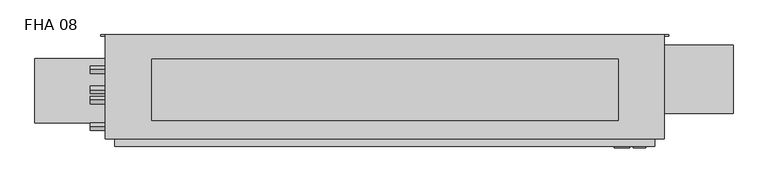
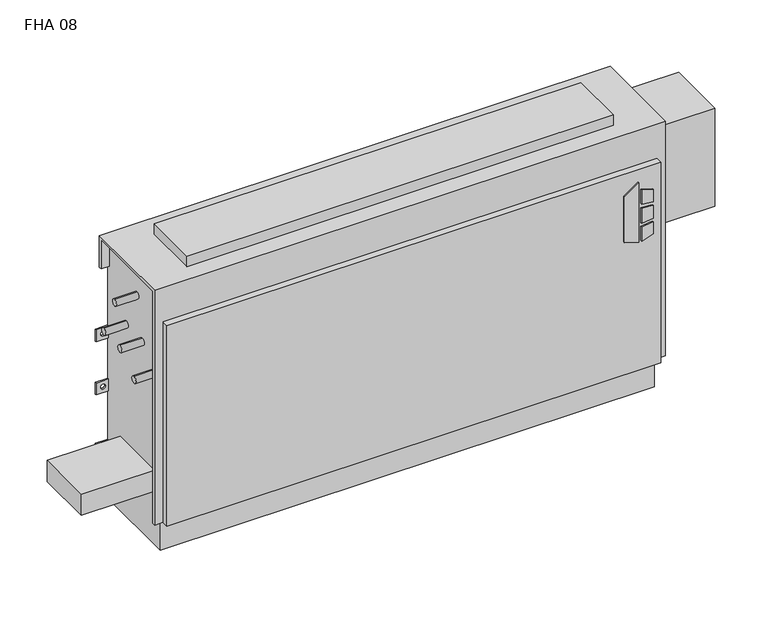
"""IFC4 building model written with IfcOpenShell, lengths in millimetres: proxy geometry, Vertical_Fan_Coil_Unit_-_FHA_-_IEC_-_4-Pipe_TS-FR_LH_2022 : FHA 08."""

from ifc_helpers import new_model, si_unit, point, frame, frame_2d, origin, place, context, project, spatial, polyline, circle_curve, trimmed, segment, composite_curve, outline, extrude, source, transform, mapped, element, save
from ifc_brep_helpers import plane_surface, revolved_surface, advanced_brep


def fha_08_7689c4cf(model_context):
    return source(origin(), model_context, "Body", "SolidModel", [
        extrude(outline(polyline([(391.6086829, 627.1368862), (381.6606126, 659.3102728), (523.831537, 659.3102728), (500.8095309, 627.1368862), (391.6086829, 627.1368862)])), frame((0.0, 9.525, 0.0), z_axis=(0.0, 1.0, 0.0), x_axis=(0.0, 0.0, 1.0)), (0.0, 0.0, 1.0), 3.175),
        extrude(outline(polyline([(470.6079683, 666.0686058), (467.4055757, 692.15), (496.6344168, 692.15), (504.6988318, 666.0686058), (470.6079683, 666.0686058)])), frame((0.0, 9.525, 0.0), z_axis=(0.0, 1.0, 0.0), x_axis=(0.0, 0.0, 1.0)), (0.0, 0.0, 1.0), 3.175),
        extrude(outline(polyline([(418.7444414, 692.15), (415.0789404, 666.0686058), (381.6606126, 666.0686058), (390.2948498, 692.15), (418.7444414, 692.15)])), frame((0.0, 9.525, 0.0), z_axis=(0.0, 1.0, 0.0), x_axis=(0.0, 0.0, 1.0)), (0.0, 0.0, 1.0), 3.175),
        extrude(outline(polyline([(458.0596028, 692.15), (460.3414292, 666.0686058), (424.4038806, 666.0686058), (427.1451456, 692.15), (458.0596028, 692.15)])), frame((0.0, 9.525, 0.0), z_axis=(0.0, 1.0, 0.0), x_axis=(0.0, 0.0, 1.0)), (0.0, 0.0, 1.0), 3.175),
        extrude(outline(composite_curve([segment(trimmed(circle_curve(frame_2d((-469.9, 128.5875)), 9.525), [point((-479.425, 128.5875))], [point((-460.375, 128.5875))], False, "CARTESIAN"), True, "CONTINUOUS"), segment(trimmed(circle_curve(frame_2d((-469.9, 128.5875)), 9.525), [point((-460.375, 128.5875))], [point((-479.425, 128.5875))], False, "CARTESIAN"), True, "CONTINUOUS")], self_intersect=False)), frame((0.0, 0.0, 101.6), z_axis=(0.0, 0.0, 1.0), x_axis=(1.0, 0.0, 0.0)), (0.0, 0.0, 1.0), 25.4),
        extrude(outline(polyline([(-571.5, 61.9125), (-571.5, 195.2625), (-406.4, 195.2625), (-406.4, 61.9125), (-571.5, 61.9125)])), frame((0.0, 0.0, 127.0), z_axis=(0.0, 0.0, 1.0), x_axis=(1.0, 0.0, 0.0)), (0.0, 0.0, 1.0), 50.8),
        extrude(outline(polyline([(635.0, 193.675), (635.0, 66.675), (-330.2, 66.675), (-330.2, 193.675), (635.0, 193.675)])), frame((0.0, 0.0, 635.0), z_axis=(0.0, 0.0, 1.0), x_axis=(1.0, 0.0, 0.0)), (0.0, 0.0, 1.0), 25.4),
        extrude(outline(composite_curve([segment(trimmed(circle_curve(frame_2d((109.0168, 457.2)), 7.9375), [point((109.0168, 465.1375))], [point((109.0168, 449.2625))], False, "CARTESIAN"), True, "CONTINUOUS"), segment(trimmed(circle_curve(frame_2d((109.0168, 457.2)), 7.9375), [point((109.0168, 449.2625))], [point((109.0168, 465.1375))], False, "CARTESIAN"), True, "CONTINUOUS")], self_intersect=False)), frame((-457.2, 0.0, 0.0), z_axis=(1.0, 0.0, 0.0), x_axis=(0.0, 1.0, 0.0)), (0.0, 0.0, 1.0), 50.8),
        extrude(outline(composite_curve([segment(trimmed(circle_curve(frame_2d((172.085, 460.0194)), 7.9375), [point((172.085, 467.9569))], [point((172.085, 452.0819))], False, "CARTESIAN"), True, "CONTINUOUS"), segment(trimmed(circle_curve(frame_2d((172.085, 460.0194)), 7.9375), [point((172.085, 452.0819))], [point((172.085, 467.9569))], False, "CARTESIAN"), True, "CONTINUOUS")], self_intersect=False)), frame((-457.2, 0.0, 0.0), z_axis=(1.0, 0.0, 0.0), x_axis=(0.0, 1.0, 0.0)), (0.0, 0.0, 1.0), 50.8),
        extrude(outline(composite_curve([segment(trimmed(circle_curve(frame_2d((130.175, 554.99)), 7.9502), [point((130.175, 562.9402))], [point((130.175, 547.0398))], False, "CARTESIAN"), True, "CONTINUOUS"), segment(trimmed(circle_curve(frame_2d((130.175, 554.99)), 7.9502), [point((130.175, 547.0398))], [point((130.175, 562.9402))], False, "CARTESIAN"), True, "CONTINUOUS")], self_intersect=False)), frame((-457.2, 0.0, 0.0), z_axis=(1.0, 0.0, 0.0), x_axis=(0.0, 1.0, 0.0)), (0.0, 0.0, 1.0), 50.8),
        extrude(outline(composite_curve([segment(trimmed(circle_curve(frame_2d((53.975, 416.56)), 7.9502), [point((53.975, 424.5102))], [point((53.975, 408.6098))], False, "CARTESIAN"), True, "CONTINUOUS"), segment(trimmed(circle_curve(frame_2d((53.975, 416.56)), 7.9502), [point((53.975, 408.6098))], [point((53.975, 424.5102))], False, "CARTESIAN"), True, "CONTINUOUS")], self_intersect=False)), frame((-457.2, 0.0, 0.0), z_axis=(1.0, 0.0, 0.0), x_axis=(0.0, 1.0, 0.0)), (0.0, 0.0, 1.0), 50.8),
        extrude(outline(polyline([(873.125, 223.266), (873.125, 81.534), (711.2, 81.534), (711.2, 223.266), (873.125, 223.266)])), frame((0.0, 0.0, 349.25), z_axis=(0.0, 0.0, 1.0), x_axis=(1.0, 0.0, 0.0)), (0.0, 0.0, 1.0), 234.95),
        advanced_brep(
        [(730.25, 244.475, 635.0), (-425.45, 244.475, 635.0), (-425.45, 28.575, 635.0), (730.25, 28.575, 635.0), (-406.4, 244.475, 0.0), (711.2, 244.475, 0.0), (711.2, 38.1, 0.0), (-406.4, 38.1, 0.0), (730.25, 244.475, 558.8), (711.2, 244.475, 558.8), (711.2, 244.475, 414.3375), (739.775, 244.475, 414.3375), (739.775, 244.475, 385.7625), (711.2, 244.475, 385.7625), (711.2, 244.475, 287.3375), (739.775, 244.475, 287.3375), (739.775, 244.475, 258.7625), (711.2, 244.475, 258.7625), (711.2, 244.475, 141.2875), (739.775, 244.475, 141.2875), (739.775, 244.475, 112.7125), (711.2, 244.475, 112.7125), (-406.4, 244.475, 112.7125), (-434.975, 244.475, 112.7125), (-434.975, 244.475, 141.2875), (-406.4, 244.475, 141.2875), (-406.4, 244.475, 258.7625), (-434.975, 244.475, 258.7625), (-434.975, 244.475, 287.3375), (-406.4, 244.475, 287.3375), (-406.4, 244.475, 385.7625), (-434.975, 244.475, 385.7625), (-434.975, 244.475, 414.3375), (-406.4, 244.475, 414.3375), (-406.4, 244.475, 558.8), (-425.45, 244.475, 558.8), (729.4626, 244.475, 127.0), (718.3374, 244.475, 127.0), (-413.5374, 244.475, 127.0), (-424.6626, 244.475, 127.0), (729.4626, 244.475, 273.05), (718.3374, 244.475, 273.05), (-413.5374, 244.475, 273.05), (-424.6626, 244.475, 273.05), (729.4626, 244.475, 400.05), (718.3374, 244.475, 400.05), (-413.5374, 244.475, 400.05), (-424.6626, 244.475, 400.05), (-425.45, 238.125, 558.8), (-425.45, 238.125, 628.65), (-425.45, 34.925, 628.65), (-425.45, 34.925, 73.025), (-425.45, 28.575, 73.025), (711.2, 12.7, 552.45), (-406.4, 12.7, 552.45), (-406.4, 12.7, 73.025), (711.2, 12.7, 73.025), (730.25, 28.575, 73.025), (730.25, 34.925, 73.025), (730.25, 34.925, 628.65), (730.25, 238.125, 628.65), (730.25, 238.125, 558.8), (-406.4, 28.575, 73.025), (-406.4, 28.575, 552.45), (711.2, 28.575, 552.45), (711.2, 28.575, 73.025), (-406.4, 34.925, 73.025), (-406.4, 38.1, 73.025), (711.2, 38.1, 73.025), (711.2, 34.925, 73.025), (711.2, 241.3, 112.7125), (711.2, 241.3, 141.2875), (711.2, 241.3, 258.7625), (711.2, 241.3, 287.3375), (711.2, 241.3, 385.7625), (711.2, 241.3, 414.3375), (711.2, 238.125, 558.8), (711.2, 238.125, 628.65), (711.2, 34.925, 628.65), (-406.4, 34.925, 628.65), (-406.4, 238.125, 628.65), (-406.4, 238.125, 558.8), (-406.4, 241.3, 414.3375), (-406.4, 241.3, 385.7625), (-406.4, 241.3, 287.3375), (-406.4, 241.3, 258.7625), (-406.4, 241.3, 141.2875), (-406.4, 241.3, 112.7125), (739.775, 241.3, 112.7125), (739.775, 241.3, 141.2875), (718.3374, 241.3, 127.0), (729.4626, 241.3, 127.0), (739.775, 241.3, 258.7625), (739.775, 241.3, 287.3375), (718.3374, 241.3, 273.05), (729.4626, 241.3, 273.05), (739.775, 241.3, 385.7625), (739.775, 241.3, 414.3375), (718.3374, 241.3, 400.05), (729.4626, 241.3, 400.05), (-434.975, 241.3, 141.2875), (-434.975, 241.3, 112.7125), (-424.6626, 241.3, 127.0), (-413.5374, 241.3, 127.0), (-434.975, 241.3, 287.3375), (-434.975, 241.3, 258.7625), (-424.6626, 241.3, 273.05), (-413.5374, 241.3, 273.05), (-434.975, 241.3, 414.3375), (-434.975, 241.3, 385.7625), (-424.6626, 241.3, 400.05), (-413.5374, 241.3, 400.05)],
        [
            (0, 1),
            (1, 2),
            (2, 3),
            (3, 0),
            (4, 5),
            (5, 6),
            (6, 7),
            (7, 4),
            (0, 8),
            (8, 9),
            (9, 10),
            (10, 11),
            (11, 12),
            (12, 13),
            (13, 14),
            (14, 15),
            (15, 16),
            (16, 17),
            (17, 18),
            (18, 19),
            (19, 20),
            (20, 21),
            (21, 5),
            (4, 22),
            (22, 23),
            (23, 24),
            (24, 25),
            (25, 26),
            (26, 27),
            (27, 28),
            (28, 29),
            (29, 30),
            (30, 31),
            (31, 32),
            (32, 33),
            (33, 34),
            (34, 35),
            (35, 1),
            (36, 37, circle_curve(frame((723.9, 244.475, 127.0), z_axis=(0.0, -1.0, 0.0), x_axis=(-1.0, 0.0, 0.0)), 5.5626)),
            (37, 36, circle_curve(frame((723.9, 244.475, 127.0), z_axis=(0.0, -1.0, 0.0), x_axis=(-1.0, 0.0, 0.0)), 5.5626)),
            (38, 39, circle_curve(frame((-419.1, 244.475, 127.0), z_axis=(0.0, -1.0, 0.0), x_axis=(-1.0, 0.0, 0.0)), 5.5626)),
            (39, 38, circle_curve(frame((-419.1, 244.475, 127.0), z_axis=(0.0, -1.0, 0.0), x_axis=(-1.0, 0.0, 0.0)), 5.5626)),
            (40, 41, circle_curve(frame((723.9, 244.475, 273.05), z_axis=(0.0, -1.0, 0.0), x_axis=(-1.0, 0.0, 0.0)), 5.5626)),
            (41, 40, circle_curve(frame((723.9, 244.475, 273.05), z_axis=(0.0, -1.0, 0.0), x_axis=(-1.0, 0.0, 0.0)), 5.5626)),
            (42, 43, circle_curve(frame((-419.1, 244.475, 273.05), z_axis=(0.0, -1.0, 0.0), x_axis=(-1.0, 0.0, 0.0)), 5.5626)),
            (43, 42, circle_curve(frame((-419.1, 244.475, 273.05), z_axis=(0.0, -1.0, 0.0), x_axis=(-1.0, 0.0, 0.0)), 5.5626)),
            (44, 45, circle_curve(frame((723.9, 244.475, 400.05), z_axis=(0.0, -1.0, 0.0), x_axis=(-1.0, 0.0, 0.0)), 5.5626)),
            (45, 44, circle_curve(frame((723.9, 244.475, 400.05), z_axis=(0.0, -1.0, 0.0), x_axis=(-1.0, 0.0, 0.0)), 5.5626)),
            (46, 47, circle_curve(frame((-419.1, 244.475, 400.05), z_axis=(0.0, -1.0, 0.0), x_axis=(-1.0, 0.0, 0.0)), 5.5626)),
            (47, 46, circle_curve(frame((-419.1, 244.475, 400.05), z_axis=(0.0, -1.0, 0.0), x_axis=(-1.0, 0.0, 0.0)), 5.5626)),
            (35, 48),
            (48, 49),
            (49, 50),
            (50, 51),
            (51, 52),
            (52, 2),
            (53, 54),
            (54, 55),
            (55, 56),
            (56, 53),
            (3, 57),
            (57, 58),
            (58, 59),
            (59, 60),
            (60, 61),
            (61, 8),
            (52, 62),
            (62, 63),
            (63, 64),
            (64, 65),
            (65, 57),
            (53, 64),
            (63, 54),
            (55, 62),
            (51, 66),
            (66, 67),
            (67, 68),
            (68, 69),
            (69, 58),
            (65, 56),
            (6, 68),
            (67, 7),
            (21, 70),
            (70, 71),
            (71, 18),
            (17, 72),
            (72, 73),
            (73, 14),
            (13, 74),
            (74, 75),
            (75, 10),
            (9, 76),
            (76, 77),
            (77, 78),
            (78, 69),
            (66, 79),
            (79, 80),
            (80, 81),
            (81, 34),
            (33, 82),
            (82, 83),
            (83, 30),
            (29, 84),
            (84, 85),
            (85, 26),
            (25, 86),
            (86, 87),
            (87, 22),
            (76, 61),
            (60, 77),
            (78, 59),
            (50, 79),
            (81, 48),
            (80, 49),
            (70, 88),
            (88, 89),
            (89, 71),
            (90, 91, circle_curve(frame((723.9, 241.3, 127.0), z_axis=(0.0, 1.0, 0.0), x_axis=(-1.0, 0.0, 0.0)), 5.5626)),
            (91, 90, circle_curve(frame((723.9, 241.3, 127.0), z_axis=(0.0, 1.0, 0.0), x_axis=(-1.0, 0.0, 0.0)), 5.5626)),
            (92, 93),
            (93, 73),
            (72, 92),
            (94, 95, circle_curve(frame((723.9, 241.3, 273.05), z_axis=(0.0, 1.0, 0.0), x_axis=(-1.0, 0.0, 0.0)), 5.5626)),
            (95, 94, circle_curve(frame((723.9, 241.3, 273.05), z_axis=(0.0, 1.0, 0.0), x_axis=(-1.0, 0.0, 0.0)), 5.5626)),
            (96, 97),
            (97, 75),
            (74, 96),
            (98, 99, circle_curve(frame((723.9, 241.3, 400.05), z_axis=(0.0, 1.0, 0.0), x_axis=(-1.0, 0.0, 0.0)), 5.5626)),
            (99, 98, circle_curve(frame((723.9, 241.3, 400.05), z_axis=(0.0, 1.0, 0.0), x_axis=(-1.0, 0.0, 0.0)), 5.5626)),
            (100, 101),
            (101, 87),
            (86, 100),
            (102, 103, circle_curve(frame((-419.1, 241.3, 127.0), z_axis=(0.0, 1.0, 0.0), x_axis=(-1.0, 0.0, 0.0)), 5.5626)),
            (103, 102, circle_curve(frame((-419.1, 241.3, 127.0), z_axis=(0.0, 1.0, 0.0), x_axis=(-1.0, 0.0, 0.0)), 5.5626)),
            (84, 104),
            (104, 105),
            (105, 85),
            (106, 107, circle_curve(frame((-419.1, 241.3, 273.05), z_axis=(0.0, 1.0, 0.0), x_axis=(-1.0, 0.0, 0.0)), 5.5626)),
            (107, 106, circle_curve(frame((-419.1, 241.3, 273.05), z_axis=(0.0, 1.0, 0.0), x_axis=(-1.0, 0.0, 0.0)), 5.5626)),
            (108, 109),
            (109, 83),
            (82, 108),
            (110, 111, circle_curve(frame((-419.1, 241.3, 400.05), z_axis=(0.0, 1.0, 0.0), x_axis=(-1.0, 0.0, 0.0)), 5.5626)),
            (111, 110, circle_curve(frame((-419.1, 241.3, 400.05), z_axis=(0.0, 1.0, 0.0), x_axis=(-1.0, 0.0, 0.0)), 5.5626)),
            (89, 19),
            (88, 20),
            (16, 92),
            (93, 15),
            (12, 96),
            (97, 11),
            (24, 100),
            (101, 23),
            (105, 27),
            (104, 28),
            (32, 108),
            (109, 31),
            (90, 37),
            (36, 91),
            (102, 39),
            (38, 103),
            (94, 41),
            (40, 95),
            (106, 43),
            (42, 107),
            (98, 45),
            (44, 99),
            (110, 47),
            (46, 111),
        ],
        [
            plane_surface(frame((-425.45, 244.475, 635.0), z_axis=(0.0, 0.0, 1.0), x_axis=(-1.0, 0.0, 0.0))),
            plane_surface(frame((-425.45, 244.475, 0.0), z_axis=(0.0, 0.0, -1.0), x_axis=(1.0, 0.0, 0.0))),
            plane_surface(frame((730.25, 244.475, 635.0), z_axis=(0.0, 1.0, 0.0), x_axis=(0.0, 0.0, -1.0))),
            plane_surface(frame((-425.45, 244.475, 635.0), z_axis=(-1.0, 0.0, 0.0), x_axis=(0.0, 0.0, -1.0))),
            plane_surface(frame((-425.45, 12.7, 635.0), z_axis=(0.0, -1.0, 0.0), x_axis=(0.0, 0.0, -1.0))),
            plane_surface(frame((730.25, 12.7, 635.0), z_axis=(1.0, 0.0, 0.0), x_axis=(0.0, 0.0, -1.0))),
            plane_surface(frame((-704.85, 28.575, 635.0), z_axis=(0.0, -1.0, 0.0), x_axis=(1.0, 0.0, 0.0))),
            plane_surface(frame((-704.85, 28.575, 552.45), z_axis=(0.0, 0.0, 1.0), x_axis=(1.0, 0.0, 0.0))),
            plane_surface(frame((-425.45, 12.7, 73.025), z_axis=(0.0, 0.0, -1.0), x_axis=(1.0, 0.0, 0.0))),
            plane_surface(frame((-425.45, 38.1, 73.025), z_axis=(0.0, -1.0, 0.0), x_axis=(1.0, 0.0, 0.0))),
            plane_surface(frame((711.2, 28.575, 73.025), z_axis=(1.0, 0.0, 0.0), x_axis=(0.0, -1.0, 0.0))),
            plane_surface(frame((-406.4, 28.575, 552.45), z_axis=(-1.0, 0.0, 0.0), x_axis=(0.0, -1.0, 0.0))),
            plane_surface(frame((711.2, 244.475, 0.0), z_axis=(1.0, 0.0, 0.0), x_axis=(0.0, -1.0, 0.0))),
            plane_surface(frame((-406.4, 244.475, 73.025), z_axis=(-1.0, 0.0, 0.0), x_axis=(0.0, -1.0, 0.0))),
            plane_surface(frame((711.2, 238.125, 628.65), z_axis=(0.0, -1.0, 0.0), x_axis=(1.0, 0.0, 0.0))),
            plane_surface(frame((711.2, 238.125, 558.8), z_axis=(0.0, 0.0, -1.0), x_axis=(1.0, 0.0, 0.0))),
            plane_surface(frame((711.2, 34.925, 73.025), z_axis=(0.0, 1.0, 0.0), x_axis=(1.0, 0.0, 0.0))),
            plane_surface(frame((711.2, 34.925, 628.65), z_axis=(0.0, 0.0, -1.0), x_axis=(1.0, 0.0, 0.0))),
            plane_surface(frame((-406.4, 34.925, 628.65), z_axis=(0.0, 1.0, 0.0), x_axis=(-1.0, 0.0, 0.0))),
            plane_surface(frame((-406.4, 244.475, 558.8), z_axis=(0.0, 0.0, -1.0), x_axis=(-1.0, 0.0, 0.0))),
            plane_surface(frame((-406.4, 238.125, 558.8), z_axis=(0.0, -1.0, 0.0), x_axis=(-1.0, 0.0, 0.0))),
            plane_surface(frame((-406.4, 238.125, 628.65), z_axis=(0.0, 0.0, -1.0), x_axis=(-1.0, 0.0, 0.0))),
            plane_surface(frame((739.775, 241.3, 141.2875), z_axis=(0.0, -1.0, 0.0), x_axis=(-1.0, 0.0, 0.0))),
            plane_surface(frame((711.2, 244.475, 141.2875), z_axis=(0.0, 0.0, 1.0), x_axis=(0.0, -1.0, 0.0))),
            plane_surface(frame((739.775, 244.475, 141.2875), z_axis=(1.0, 0.0, 0.0), x_axis=(0.0, -1.0, 0.0))),
            plane_surface(frame((739.775, 244.475, 112.7125), z_axis=(0.0, 0.0, -1.0), x_axis=(0.0, -1.0, 0.0))),
            plane_surface(frame((739.775, 244.475, 258.7625), z_axis=(0.0, 0.0, -1.0), x_axis=(0.0, -1.0, 0.0))),
            plane_surface(frame((711.2, 244.475, 287.3375), z_axis=(0.0, 0.0, 1.0), x_axis=(0.0, -1.0, 0.0))),
            plane_surface(frame((739.775, 244.475, 287.3375), z_axis=(1.0, 0.0, 0.0), x_axis=(0.0, -1.0, 0.0))),
            plane_surface(frame((739.775, 244.475, 385.7625), z_axis=(0.0, 0.0, -1.0), x_axis=(0.0, -1.0, 0.0))),
            plane_surface(frame((711.2, 244.475, 414.3375), z_axis=(0.0, 0.0, 1.0), x_axis=(0.0, -1.0, 0.0))),
            plane_surface(frame((739.775, 244.475, 414.3375), z_axis=(1.0, 0.0, 0.0), x_axis=(0.0, -1.0, 0.0))),
            plane_surface(frame((-434.975, 244.475, 141.2875), z_axis=(0.0, 0.0, 1.0), x_axis=(0.0, -1.0, 0.0))),
            plane_surface(frame((-406.4, 244.475, 112.7125), z_axis=(0.0, 0.0, -1.0), x_axis=(0.0, -1.0, 0.0))),
            plane_surface(frame((-434.975, 244.475, 112.7125), z_axis=(-1.0, 0.0, 0.0), x_axis=(0.0, -1.0, 0.0))),
            plane_surface(frame((-406.4, 244.475, 258.7625), z_axis=(0.0, 0.0, -1.0), x_axis=(0.0, -1.0, 0.0))),
            plane_surface(frame((-434.975, 244.475, 258.7625), z_axis=(-1.0, 0.0, 0.0), x_axis=(0.0, -1.0, 0.0))),
            plane_surface(frame((-434.975, 244.475, 287.3375), z_axis=(0.0, 0.0, 1.0), x_axis=(0.0, -1.0, 0.0))),
            plane_surface(frame((-434.975, 244.475, 414.3375), z_axis=(0.0, 0.0, 1.0), x_axis=(0.0, -1.0, 0.0))),
            plane_surface(frame((-406.4, 244.475, 385.7625), z_axis=(0.0, 0.0, -1.0), x_axis=(0.0, -1.0, 0.0))),
            plane_surface(frame((-434.975, 244.475, 385.7625), z_axis=(-1.0, 0.0, 0.0), x_axis=(0.0, -1.0, 0.0))),
            revolved_surface(polyline([(718.3374, 241.3, 127.0), (718.3374, 244.475, 127.0)]), (723.9, 244.475, 127.0), (0.0, -1.0, 0.0)),
            revolved_surface(polyline([(-424.6626, 241.3, 127.0), (-424.6626, 244.475, 127.0)]), (-419.1, 244.475, 127.0), (0.0, -1.0, 0.0)),
            revolved_surface(polyline([(718.3374, 241.3, 273.05), (718.3374, 244.475, 273.05)]), (723.9, 244.475, 273.05), (0.0, -1.0, 0.0)),
            revolved_surface(polyline([(-424.6626, 241.3, 273.05), (-424.6626, 244.475, 273.05)]), (-419.1, 244.475, 273.05), (0.0, -1.0, 0.0)),
            revolved_surface(polyline([(718.3374, 241.3, 400.05), (718.3374, 244.475, 400.05)]), (723.9, 244.475, 400.05), (0.0, -1.0, 0.0)),
            revolved_surface(polyline([(-424.6626, 241.3, 400.05), (-424.6626, 244.475, 400.05)]), (-419.1, 244.475, 400.05), (0.0, -1.0, 0.0)),
        ],
        [
            (0, [[1, 2, 3, 4]]),
            (1, [[5, 6, 7, 8]]),
            (2, [[-1, 9, 10, 11, 12, 13, 14, 15, 16, 17, 18, 19, 20, 21, 22, 23, -5, 24, 25, 26, 27, 28, 29, 30, 31, 32, 33, 34, 35, 36, 37, 38], [39, 40], [41, 42], [43, 44], [45, 46], [47, 48], [49, 50]]),
            (3, [[-2, -38, 51, 52, 53, 54, 55, 56]]),
            (4, [[57, 58, 59, 60]]),
            (5, [[-4, 61, 62, 63, 64, 65, 66, -9]]),
            (6, [[-3, -56, 67, 68, 69, 70, 71, -61]]),
            (7, [[-57, 72, -69, 73]]),
            (8, [[-59, 74, -67, -55, 75, 76, 77, 78, 79, -62, -71, 80]]),
            (9, [[-7, 81, -77, 82]]),
            (10, [[-70, -72, -60, -80]]),
            (11, [[-68, -74, -58, -73]]),
            (12, [[-6, -23, 83, 84, 85, -19, 86, 87, 88, -15, 89, 90, 91, -11, 92, 93, 94, 95, -78, -81]]),
            (13, [[-8, -82, -76, 96, 97, 98, 99, -36, 100, 101, 102, -32, 103, 104, 105, -28, 106, 107, 108, -24]]),
            (14, [[-93, 109, -65, 110]]),
            (15, [[-92, -10, -66, -109]]),
            (16, [[-95, 111, -63, -79]]),
            (17, [[-94, -110, -64, -111]]),
            (18, [[-96, -75, -54, 112]]),
            (19, [[-99, 113, -51, -37]]),
            (20, [[-98, 114, -52, -113]]),
            (21, [[-97, -112, -53, -114]]),
            (22, [[115, 116, 117, -84], [118, 119]]),
            (22, [[120, 121, -87, 122], [123, 124]]),
            (22, [[125, 126, -90, 127], [128, 129]]),
            (22, [[130, 131, -107, 132], [133, 134]]),
            (22, [[135, 136, 137, -104], [138, 139]]),
            (22, [[140, 141, -101, 142], [143, 144]]),
            (23, [[-117, 145, -20, -85]]),
            (24, [[-116, 146, -21, -145]]),
            (25, [[-115, -83, -22, -146]]),
            (26, [[-122, -86, -18, 147]]),
            (27, [[-121, 148, -16, -88]]),
            (28, [[-120, -147, -17, -148]]),
            (29, [[-127, -89, -14, 149]]),
            (30, [[-126, 150, -12, -91]]),
            (31, [[-125, -149, -13, -150]]),
            (32, [[-132, -106, -27, 151]]),
            (33, [[-131, 152, -25, -108]]),
            (34, [[-130, -151, -26, -152]]),
            (35, [[-137, 153, -29, -105]]),
            (36, [[-136, 154, -30, -153]]),
            (37, [[-135, -103, -31, -154]]),
            (38, [[-142, -100, -35, 155]]),
            (39, [[-141, 156, -33, -102]]),
            (40, [[-140, -155, -34, -156]]),
            (41, [[157, -39, 158, -118]]),
            (41, [[-157, -119, -158, -40]]),
            (42, [[159, -41, 160, -133]]),
            (42, [[-159, -134, -160, -42]]),
            (43, [[161, -43, 162, -123]]),
            (43, [[-161, -124, -162, -44]]),
            (44, [[163, -45, 164, -138]]),
            (44, [[-163, -139, -164, -46]]),
            (45, [[165, -47, 166, -128]]),
            (45, [[-165, -129, -166, -48]]),
            (46, [[167, -49, 168, -143]]),
            (46, [[-167, -144, -168, -50]]),
        ],
    ),
    ])


if __name__ == "__main__":
    model = new_model("IFC4")
    model_context = context("Model", 3, world=origin())
    ifc_project = project(units=[si_unit("LENGTHUNIT", "METRE", prefix="MILLI")], contexts=[model_context])
    site = spatial("IfcSite", under=ifc_project)
    building = spatial("IfcBuilding", under=site)
    placement = place(None, origin())
    fha_08_shape = fha_08_7689c4cf(model_context)
    element("IfcBuildingElementProxy", 1, Name="Vertical_Fan_Coil_Unit_-_FHA_-_IEC_-_4-Pipe_TS-FR_LH_2022 : FHA 08", ObjectType="Vertical_Fan_Coil_Unit_-_FHA_-_IEC_-_4-Pipe_TS-FR_LH_2022 : FHA 08", at=placement, inside=building, context=model_context, shape_type="MappedRepresentation", body=[
        mapped(fha_08_shape, transform((0.0, 0.0, 0.0), x_axis=(1.0, 0.0, 0.0), y_axis=(0.0, 1.0, 0.0), z_axis=(0.0, 0.0, 1.0))),
    ])
    save(model, "model.ifc")
